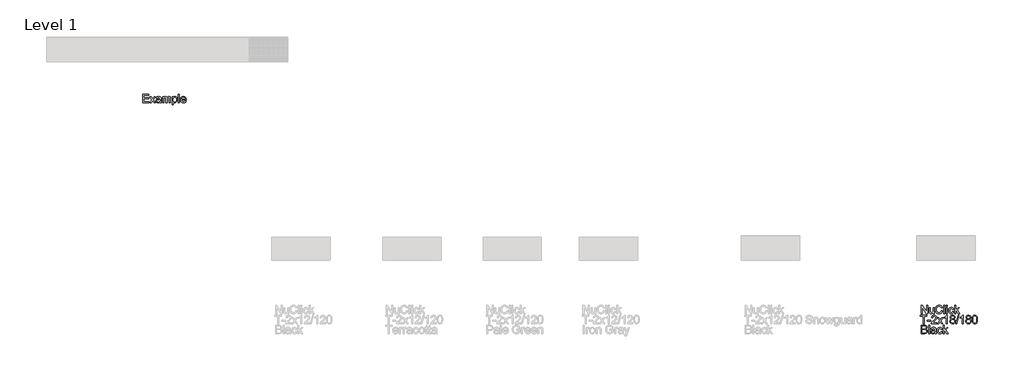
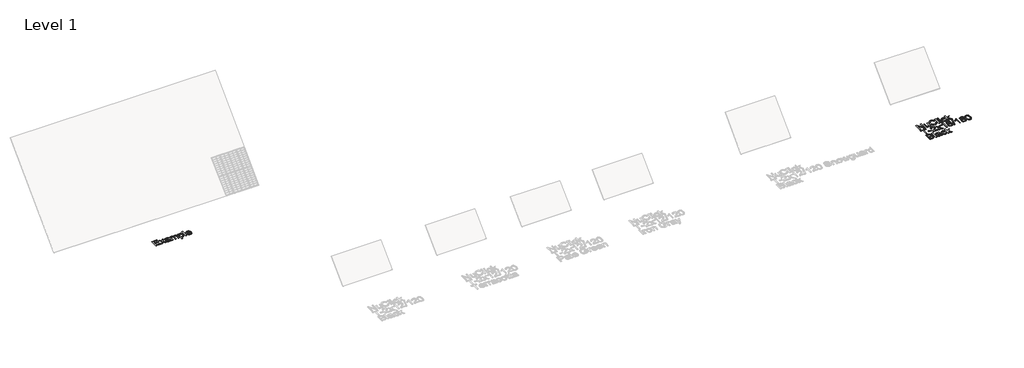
# One storey, part 13 of 13: 2 proxies.
"""IFC4 building model written with IfcOpenShell, lengths in millimetres."""

from ifc_helpers import new_model, si_unit, frame, origin, place, context, project, spatial, polyline, outline, extrude, element, save

model = new_model("IFC4")

# Units and contexts
model_context = context("Model", 3, world=origin())
ifc_project = project(units=[si_unit("LENGTHUNIT", "METRE", prefix="MILLI")], contexts=[model_context])

# Site, building, storey
site = spatial("IfcSite", under=ifc_project)
building = spatial("IfcBuilding", under=site)
storey = spatial("IfcBuildingStorey", under=building, Name="Level 1", Elevation=4000.0)

# Proxies
placement = place(None, origin())
element("IfcBuildingElementProxy", 1, Name="Elysium 400mm Arial", ObjectType="Elysium 400mm Arial", at=placement, inside=storey, context=model_context, shape_type="SweptSolid", body=[
    extrude(outline(polyline([(64683.147161, -9059.2083158), (64683.147161, -8657.3830752), (64736.9069832, -8657.3830752), (64946.8449751, -8975.7236283), (64946.8449751, -8657.3830752), (64997.0731302, -8657.3830752), (64997.0731302, -9059.2083158), (64943.313308, -9059.2083158), (64733.3753161, -8740.7696607), (64733.3753161, -9059.2083158), (64683.147161, -9059.2083158)])), frame((0.0, 0.0, 4000.0), z_axis=(0.0, 0.0, 1.0), x_axis=(1.0, 0.0, 0.0)), (0.0, 0.0, 1.0), 10.0),
    extrude(outline(polyline([(65267.0494637, -9059.2083158), (65267.0494637, -9008.4896513), (65248.8760932, -9033.4259193), (65227.7106157, -9051.2375392), (65203.5530314, -9061.9245111), (65176.4033401, -9065.4868351), (65151.9391875, -9062.9852376), (65129.167292, -9055.4804449), (65110.0619537, -9044.1987303), (65096.5974726, -9030.3663673), (65087.5353128, -9013.5664229), (65081.6369382, -8993.3819641), (65078.6938822, -8946.6854762), (65078.6938822, -8764.1179047), (65128.9220373, -8764.1179047), (65128.9220373, -8923.0429266), (65131.9631951, -8974.2521003), (65139.2840468, -8991.3340876), (65151.8288229, -9004.3203221), (65168.7636574, -9012.5240906), (65189.2546845, -9015.2586801), (65210.922934, -9012.4627769), (65231.1932319, -9004.0750674), (65247.9073373, -8990.8681038), (65258.9070089, -8973.6144382), (65265.01385, -8949.9841514), (65267.0494637, -8917.647324), (65267.0494637, -8764.1179047), (65317.2776188, -8764.1179047), (65317.2776188, -9059.2083158), (65267.0494637, -9059.2083158)])), frame((0.0, 0.0, 4000.0), z_axis=(0.0, 0.0, 1.0), x_axis=(1.0, 0.0, 0.0)), (0.0, 0.0, 1.0), 10.0),
    extrude(outline(polyline([(65675.1532237, -8916.3719998), (65725.3813788, -8929.321446), (65715.4424336, -8960.5576931), (65702.2048131, -8987.8514714), (65685.6685174, -9011.2027811), (65665.8335465, -9030.611622), (65643.1474901, -9045.8695277), (65618.0579381, -9056.7680318), (65590.5648903, -9063.3071343), (65560.6683468, -9065.4868351), (65530.039105, -9063.8374975), (65502.4081015, -9058.8894847), (65477.7753363, -9050.6427966), (65456.1408093, -9039.0974333), (65437.2071492, -9024.4250731), (65420.6769849, -9006.7973942), (65406.5503163, -8986.2143965), (65394.8271434, -8962.6760802), (65379.0450058, -8910.8047189), (65373.7842933, -8855.2545376), (65379.7317189, -8796.6631985), (65387.1660009, -8770.3657672), (65397.5739956, -8746.0671615), (65410.7227113, -8724.1689857), (65426.3791559, -8705.0728445), (65444.5433294, -8688.7787378), (65465.2152318, -8675.2866656), (65487.6928217, -8664.7069925), (65511.2740576, -8657.1500832), (65561.7474673, -8651.1045558), (65590.4759855, -8653.0604617), (65616.819402, -8658.9281795), (65640.777717, -8668.7077092), (65662.3509303, -8682.3990508), (65681.1834228, -8699.6404537), (65696.9195751, -8720.0701671), (65709.5593873, -8743.6881912), (65719.1028594, -8770.4945259), (65668.8747043, -8782.4629535), (65651.4616232, -8745.8341695), (65627.6719209, -8720.7078293), (65597.2112917, -8706.1764904), (65559.78543, -8701.3327108), (65516.6451347, -8706.703788), (65497.9628608, -8713.4176344), (65481.2058359, -8722.8170194), (65454.313662, -8747.9801478), (65436.8147418, -8780.5009162), (65427.2130217, -8817.2645903), (65424.0124484, -8855.1564358), (65427.8016329, -8901.5586181), (65439.1691866, -8941.682281), (65458.544305, -8973.9945829), (65486.3561838, -8996.9626822), (65519.6985553, -9010.6846806), (65555.6651517, -9015.2586801), (65577.5020138, -9013.7013129), (65597.5914364, -9009.0292116), (65615.9334196, -9001.242376), (65632.5279632, -8990.3408063), (65646.9826599, -8976.3735532), (65658.9051023, -8959.3896677), (65668.2952902, -8939.3891499), (65675.1532237, -8916.3719998)])), frame((0.0, 0.0, 4000.0), z_axis=(0.0, 0.0, 1.0), x_axis=(1.0, 0.0, 0.0)), (0.0, 0.0, 1.0), 10.0),
    extrude(outline(polyline([(65788.1665726, -9059.2083158), (65788.1665726, -8657.3830752), (65838.3947277, -8657.3830752), (65838.3947277, -9059.2083158), (65788.1665726, -9059.2083158)])), frame((0.0, 0.0, 4000.0), z_axis=(0.0, 0.0, 1.0), x_axis=(1.0, 0.0, 0.0)), (0.0, 0.0, 1.0), 10.0),
    extrude(outline(polyline([(65913.7369603, -8707.6112302), (65913.7369603, -8657.3830752), (65963.9651154, -8657.3830752), (65963.9651154, -8707.6112302), (65913.7369603, -8707.6112302)])), frame((0.0, 0.0, 4000.0), z_axis=(0.0, 0.0, 1.0), x_axis=(1.0, 0.0, 0.0)), (0.0, 0.0, 1.0), 10.0),
    extrude(outline(polyline([(65913.7369603, -9059.2083158), (65913.7369603, -8764.1179047), (65963.9651154, -8764.1179047), (65963.9651154, -9059.2083158), (65913.7369603, -9059.2083158)])), frame((0.0, 0.0, 4000.0), z_axis=(0.0, 0.0, 1.0), x_axis=(1.0, 0.0, 0.0)), (0.0, 0.0, 1.0), 10.0),
    extrude(outline(polyline([(66227.6629296, -8952.4734862), (66277.8910846, -8958.7520056), (66272.428037, -8982.4528031), (66263.8870433, -9003.4251425), (66252.2681037, -9021.6690238), (66237.571218, -9037.184447), (66220.4156542, -9049.5667418), (66201.4206806, -9058.4112381), (66180.5862969, -9063.7179359), (66157.9125033, -9065.4868351), (66129.7419395, -9063.0189601), (66104.4837748, -9055.6153349), (66082.1380093, -9043.2759597), (66062.7046429, -9026.0008343), (66046.9746219, -9004.1149213), (66035.7388927, -8977.943183), (66028.9974551, -8947.4856195), (66026.7503093, -8912.7422307), (66030.5885447, -8868.0445683), (66042.1032512, -8829.3065942), (66061.4783696, -8798.0243619), (66088.897841, -8775.6939248), (66121.7006522, -8762.3030202), (66157.2257902, -8757.8393853), (66179.5102421, -8759.3722269), (66199.6671097, -8763.9707519), (66217.6963932, -8771.6349601), (66233.5980924, -8782.3648516), (66247.1024273, -8795.9151718), (66257.9396178, -8812.0406659), (66266.1096637, -8830.741334), (66271.6125652, -8852.0171761), (66221.3844102, -8858.2956955), (66212.2731994, -8836.3821913), (66198.0852171, -8820.6736301), (66179.6052782, -8811.2190628), (66157.6181977, -8808.0675404), (66140.5515388, -8809.6187761), (66125.158743, -8814.2724834), (66111.4398102, -8822.0286621), (66099.3947406, -8832.8873123), (66089.5876197, -8847.0998201), (66082.5825334, -8864.9175714), (66078.3794816, -8886.3405662), (66076.9784643, -8911.3688046), (66082.4599061, -8958.4454373), (66089.3117082, -8976.3827502), (66098.9042312, -8990.5860609), (66110.7101776, -9001.3803318), (66124.2022498, -9009.0905253), (66139.3804478, -9013.7166414), (66156.2447716, -9015.2586801), (66182.2540286, -9011.4081818), (66203.5789216, -8999.8566872), (66219.0912791, -8980.3098905), (66227.6629296, -8952.4734862)])), frame((0.0, 0.0, 4000.0), z_axis=(0.0, 0.0, 1.0), x_axis=(1.0, 0.0, 0.0)), (0.0, 0.0, 1.0), 10.0),
    extrude(outline(polyline([(66321.8407203, -9059.2083158), (66321.8407203, -8657.3830752), (66372.0688754, -8657.3830752), (66372.0688754, -8873.3052809), (66484.6898168, -8764.1179047), (66554.1459375, -8764.1179047), (66440.15157, -8874.678707), (66560.4244569, -9059.2083158), (66501.7595414, -9059.2083158), (66404.1481854, -8909.602971), (66372.0688754, -8940.7012624), (66372.0688754, -9059.2083158), (66321.8407203, -9059.2083158)])), frame((0.0, 0.0, 4000.0), z_axis=(0.0, 0.0, 1.0), x_axis=(1.0, 0.0, 0.0)), (0.0, 0.0, 1.0), 10.0),
    extrude(outline(polyline([(64783.6034712, -9547.1075871), (64783.6034712, -9195.5105016), (64651.7545641, -9195.5105016), (64651.7545641, -9145.2823465), (64965.6805333, -9145.2823465), (64965.6805333, -9195.5105016), (64833.8316262, -9195.5105016), (64833.8316262, -9547.1075871), (64783.6034712, -9547.1075871)])), frame((0.0, 0.0, 4000.0), z_axis=(0.0, 0.0, 1.0), x_axis=(1.0, 0.0, 0.0)), (0.0, 0.0, 1.0), 10.0),
    extrude(outline(polyline([(64990.7946108, -9427.8157188), (64990.7946108, -9377.5875638), (65147.7575954, -9377.5875638), (65147.7575954, -9427.8157188), (64990.7946108, -9427.8157188)])), frame((0.0, 0.0, 4000.0), z_axis=(0.0, 0.0, 1.0), x_axis=(1.0, 0.0, 0.0)), (0.0, 0.0, 1.0), 10.0),
    extrude(outline(polyline([(65449.1265259, -9496.8794321), (65449.1265259, -9547.1075871), (65185.4287117, -9547.1075871), (65186.5323577, -9529.4247259), (65190.8243143, -9512.4776287), (65203.2096748, -9485.4137765), (65221.3339945, -9459.1592648), (65247.551718, -9431.6784798), (65284.2172902, -9400.9358077), (65338.4185708, -9352.7923173), (65370.9393392, -9317.2549165), (65387.1997234, -9288.4129681), (65392.6198514, -9260.3558346), (65387.5062917, -9235.2049689), (65372.1656125, -9214.2970088), (65348.5843766, -9200.2071284), (65318.7491468, -9195.5105016), (65287.4178635, -9200.0967638), (65263.0763382, -9213.8555504), (65247.367777, -9235.7077409), (65241.9353862, -9264.5742148), (65191.7072311, -9258.2956955), (65196.0267789, -9232.3661462), (65203.8841252, -9209.7107466), (65215.27927, -9190.3294968), (65230.2122133, -9174.2223968), (65248.3395986, -9161.5611248), (65269.3180694, -9152.5173591), (65293.1476256, -9147.0910997), (65319.8282673, -9145.2823465), (65346.7480323, -9147.2934348), (65370.7063473, -9153.3266995), (65391.7032121, -9163.3821407), (65409.7386269, -9177.4597584), (65424.2239805, -9194.5172202), (65434.5706616, -9213.5121939), (65440.7786703, -9234.4446794), (65442.8480065, -9257.3146768), (65440.6161891, -9281.3373711), (65433.9207368, -9304.9431324), (65422.0381483, -9328.953564), (65404.2449225, -9354.1902689), (65375.8812207, -9384.3198043), (65332.2872042, -9423.0087274), (65274.5052055, -9471.3238961), (65251.8436746, -9496.8794321), (65449.1265259, -9496.8794321)])), frame((0.0, 0.0, 4000.0), z_axis=(0.0, 0.0, 1.0), x_axis=(1.0, 0.0, 0.0)), (0.0, 0.0, 1.0), 10.0),
    extrude(outline(polyline([(65480.5191228, -9547.1075871), (65587.8425635, -9398.7775667), (65486.7976422, -9252.0171761), (65547.2283913, -9252.0171761), (65595.9850184, -9322.6505191), (65618.7446511, -9356.0051534), (65638.4631261, -9328.7328348), (65693.9887819, -9252.0171761), (65754.419531, -9252.0171761), (65648.2733126, -9398.7775667), (65750.4954563, -9547.1075871), (65690.0647073, -9547.1075871), (65628.5548377, -9457.9329915), (65617.2731232, -9441.6480818), (65540.9498719, -9547.1075871), (65480.5191228, -9547.1075871)])), frame((0.0, 0.0, 4000.0), z_axis=(0.0, 0.0, 1.0), x_axis=(1.0, 0.0, 0.0)), (0.0, 0.0, 1.0), 10.0),
    extrude(outline(polyline([(65970.2436348, -9547.1075871), (65920.0154797, -9547.1075871), (65920.0154797, -9233.9664328), (65899.046206, -9250.9257928), (65872.436075, -9267.8606273), (65819.5591696, -9293.2199595), (65819.5591696, -9245.7386567), (65859.0083822, -9224.2788736), (65893.1846195, -9198.7478632), (65920.1258443, -9171.5981719), (65937.8700192, -9145.2823465), (65970.2436348, -9145.2823465), (65970.2436348, -9547.1075871)])), frame((0.0, 0.0, 4000.0), z_axis=(0.0, 0.0, 1.0), x_axis=(1.0, 0.0, 0.0)), (0.0, 0.0, 1.0), 10.0),
    extrude(outline(polyline([(66162.7194947, -9325.7897788), (66135.8273208, -9312.546027), (66116.9549745, -9294.5933856), (66105.80815, -9272.2997367), (66102.0925419, -9246.0329623), (66104.1158928, -9225.5480665), (66110.1859458, -9206.7676907), (66120.3027006, -9189.6918347), (66134.4661574, -9174.3204987), (66151.9957345, -9161.6163071), (66172.2108501, -9152.5418846), (66195.1115043, -9147.097231), (66220.6976971, -9145.2823465), (66246.4065172, -9147.1401506), (66269.4788497, -9152.7135628), (66289.9146945, -9162.0025832), (66307.7140517, -9175.0072117), (66322.1350259, -9190.6789847), (66332.4357218, -9207.9694385), (66338.6161393, -9226.8785731), (66340.6762785, -9247.4063884), (66337.0097213, -9272.8270343), (66326.0100496, -9294.7405384), (66307.5546362, -9312.5828152), (66281.5208536, -9325.7897788), (66312.435204, -9341.7190692), (66334.9373193, -9365.1776778), (66348.6593178, -9395.0374331), (66353.2333172, -9430.1701636), (66350.9647116, -9455.2229275), (66344.1588947, -9478.1910267), (66332.8158665, -9499.0744613), (66316.935627, -9517.8732312), (66297.3520422, -9533.4101142), (66274.8989777, -9544.5078877), (66249.5764337, -9551.1665518), (66221.3844102, -9553.3861065), (66193.1923866, -9551.1573548), (66167.8698426, -9544.4710995), (66145.4167782, -9533.3273407), (66125.8331933, -9517.7260784), (66109.9529538, -9498.7954841), (66098.6099256, -9477.6637292), (66091.8041087, -9454.3308136), (66089.5355031, -9428.7967375), (66094.2934436, -9392.3028436), (66108.567265, -9362.2836728), (66131.6212033, -9339.7692946), (66162.7194947, -9325.7897788)]), holes=[polyline([(66152.3206969, -9247.5044903), (66156.7720691, -9269.4302572), (66170.1261855, -9286.9414401), (66191.9906388, -9298.4193584), (66221.9730214, -9302.2453311), (66251.2564282, -9298.4438839), (66272.7897876, -9287.039542), (66286.0335395, -9270.1169702), (66290.4481234, -9249.7608332), (66285.8863867, -9228.6321439), (66272.2011764, -9211.1577491), (66250.3735114, -9199.4223135), (66221.3844102, -9195.5105016), (66192.2113679, -9199.3364744), (66170.4204911, -9210.8143926), (66156.8456455, -9227.6388625), (66152.3206969, -9247.5044903)]), polyline([(66139.7636582, -9427.0309039), (66141.8605855, -9446.2466068), (66148.1513677, -9464.849173), (66159.764176, -9481.072769), (66177.8271819, -9493.1515612), (66199.4586433, -9500.6563539), (66221.7768176, -9503.1579514), (66255.9653177, -9497.8972389), (66269.8589944, -9491.3213482), (66281.6189555, -9482.1151013), (66297.6586105, -9458.2150344), (66303.0051622, -9428.6005338), (66297.4869322, -9398.4832611), (66280.9322425, -9374.0558966), (66268.8534503, -9364.6135921), (66254.6899935, -9357.8690888), (66220.1090859, -9352.4734862), (66186.3988324, -9357.7955124), (66172.6615056, -9364.4480452), (66161.002712, -9373.761591), (66145.0734216, -9397.7229716), (66139.7636582, -9427.0309039)])]), frame((0.0, 0.0, 4000.0), z_axis=(0.0, 0.0, 1.0), x_axis=(1.0, 0.0, 0.0)), (0.0, 0.0, 1.0), 10.0),
    extrude(outline(polyline([(66372.0688754, -9547.1075871), (66485.0822243, -9145.2823465), (66530.4052861, -9145.2823465), (66417.3919372, -9547.1075871), (66372.0688754, -9547.1075871)])), frame((0.0, 0.0, 4000.0), z_axis=(0.0, 0.0, 1.0), x_axis=(1.0, 0.0, 0.0)), (0.0, 0.0, 1.0), 10.0),
    extrude(outline(polyline([(66742.5015191, -9547.1075871), (66692.273364, -9547.1075871), (66692.273364, -9233.9664328), (66671.3040903, -9250.9257928), (66644.6939593, -9267.8606273), (66591.8170538, -9293.2199595), (66591.8170538, -9245.7386567), (66631.2662665, -9224.2788736), (66665.4425038, -9198.7478632), (66692.3837286, -9171.5981719), (66710.1279035, -9145.2823465), (66742.5015191, -9145.2823465), (66742.5015191, -9547.1075871)])), frame((0.0, 0.0, 4000.0), z_axis=(0.0, 0.0, 1.0), x_axis=(1.0, 0.0, 0.0)), (0.0, 0.0, 1.0), 10.0),
    extrude(outline(polyline([(66934.9773789, -9325.7897788), (66908.0852051, -9312.546027), (66889.2128587, -9294.5933856), (66878.0660343, -9272.2997367), (66874.3504261, -9246.0329623), (66876.3737771, -9225.5480665), (66882.44383, -9206.7676907), (66892.5605849, -9189.6918347), (66906.7240417, -9174.3204987), (66924.2536188, -9161.6163071), (66944.4687344, -9152.5418846), (66967.3693886, -9147.097231), (66992.9555814, -9145.2823465), (67018.6644015, -9147.1401506), (67041.7367339, -9152.7135628), (67062.1725788, -9162.0025832), (67079.971936, -9175.0072117), (67094.3929102, -9190.6789847), (67104.6936061, -9207.9694385), (67110.8740236, -9226.8785731), (67112.9341627, -9247.4063884), (67109.2676055, -9272.8270343), (67098.2679339, -9294.7405384), (67079.8125204, -9312.5828152), (67053.7787379, -9325.7897788), (67084.6930882, -9341.7190692), (67107.1952036, -9365.1776778), (67120.917202, -9395.0374331), (67125.4912015, -9430.1701636), (67123.2225959, -9455.2229275), (67116.416779, -9478.1910267), (67105.0737508, -9499.0744613), (67089.1935113, -9517.8732312), (67069.6099264, -9533.4101142), (67047.156862, -9544.5078877), (67021.834318, -9551.1665518), (66993.6422944, -9553.3861065), (66965.4502709, -9551.1573548), (66940.1277269, -9544.4710995), (66917.6746624, -9533.3273407), (66898.0910776, -9517.7260784), (66882.2108381, -9498.7954841), (66870.8678099, -9477.6637292), (66864.061993, -9454.3308136), (66861.7933874, -9428.7967375), (66866.5513278, -9392.3028436), (66880.8251493, -9362.2836728), (66903.8790876, -9339.7692946), (66934.9773789, -9325.7897788)]), holes=[polyline([(66924.5785812, -9247.5044903), (66929.0299534, -9269.4302572), (66942.3840698, -9286.9414401), (66964.248523, -9298.4193584), (66994.2309056, -9302.2453311), (67023.5143125, -9298.4438839), (67045.0476719, -9287.039542), (67058.2914237, -9270.1169702), (67062.7060077, -9249.7608332), (67058.1442709, -9228.6321439), (67044.4590607, -9211.1577491), (67022.6313957, -9199.4223135), (66993.6422944, -9195.5105016), (66964.4692522, -9199.3364744), (66942.6783754, -9210.8143926), (66929.1035298, -9227.6388625), (66924.5785812, -9247.5044903)]), polyline([(66912.0215424, -9427.0309039), (66914.1184698, -9446.2466068), (66920.4092519, -9464.849173), (66932.0220602, -9481.072769), (66950.0850662, -9493.1515612), (66971.7165275, -9500.6563539), (66994.0347019, -9503.1579514), (67028.223202, -9497.8972389), (67042.1168787, -9491.3213482), (67053.8768398, -9482.1151013), (67069.9164948, -9458.2150344), (67075.2630464, -9428.6005338), (67069.7448165, -9398.4832611), (67053.1901267, -9374.0558966), (67041.1113346, -9364.6135921), (67026.9478777, -9357.8690888), (66992.3669702, -9352.4734862), (66958.6567167, -9357.7955124), (66944.9193899, -9364.4480452), (66933.2605963, -9373.761591), (66917.3313059, -9397.7229716), (66912.0215424, -9427.0309039)])]), frame((0.0, 0.0, 4000.0), z_axis=(0.0, 0.0, 1.0), x_axis=(1.0, 0.0, 0.0)), (0.0, 0.0, 1.0), 10.0),
    extrude(outline(polyline([(67169.4408372, -9349.4323284), (67173.1319199, -9285.1142929), (67184.2051679, -9233.81928), (67202.5502168, -9194.7624749), (67214.4082797, -9179.5290946), (67228.0567018, -9167.1590625), (67243.5414681, -9157.5879993), (67260.9085639, -9150.7515255), (67301.2897443, -9145.2823465), (67332.2408828, -9148.5197081), (67359.9546598, -9158.2317928), (67383.1312255, -9174.0384558), (67400.4707302, -9195.5595525), (67413.5673292, -9222.6111419), (67424.0151779, -9255.009283), (67430.857783, -9296.1507528), (67433.1386513, -9349.4323284), (67429.4843569, -9413.3824819), (67418.5214734, -9464.5548674), (67400.2867892, -9503.6484608), (67388.4563173, -9518.9278263), (67374.8170924, -9531.3622377), (67359.313932, -9540.9976803), (67341.8916538, -9547.8801393), (67301.2897443, -9553.3861065), (67273.6250182, -9550.9948735), (67249.0995519, -9543.8211746), (67227.7133452, -9531.8650098), (67209.4663983, -9515.126379), (67191.9552153, -9484.8680849), (67179.4472275, -9447.1663118), (67171.9424348, -9402.0210596), (67169.4408372, -9349.4323284)]), holes=[polyline([(67219.6689923, -9349.3342265), (67221.1405203, -9392.9987537), (67225.5551042, -9428.3430164), (67232.9127441, -9455.3670146), (67243.21344, -9474.0707484), (67255.6723769, -9486.7963997), (67269.5047399, -9495.8861507), (67284.710529, -9501.3400012), (67301.2897443, -9503.1579514), (67317.8689595, -9501.3338699), (67333.0747487, -9495.8616252), (67346.9071117, -9486.7412174), (67359.3660486, -9473.9726465), (67369.6667444, -9455.2382559), (67377.0243843, -9428.220389), (67381.4389683, -9392.9190459), (67382.9104963, -9349.3342265), (67381.4880192, -9306.825462), (67377.2205881, -9272.103533), (67370.1082028, -9245.1684396), (67360.1508635, -9226.0201817), (67347.9003931, -9212.6721967), (67333.9086145, -9203.1379216), (67318.1755279, -9197.4173566), (67300.7011331, -9195.5105016), (67284.207757, -9197.1904961), (67269.2594852, -9202.2304794), (67255.8563179, -9210.6304516), (67243.9982549, -9222.3904127), (67233.3542025, -9243.2370591), (67225.7513079, -9271.3432435), (67221.1895712, -9306.708966), (67219.6689923, -9349.3342265)])]), frame((0.0, 0.0, 4000.0), z_axis=(0.0, 0.0, 1.0), x_axis=(1.0, 0.0, 0.0)), (0.0, 0.0, 1.0), 10.0),
    extrude(outline(polyline([(64683.147161, -10035.0068585), (64683.147161, -9633.1816179), (64836.4803766, -9633.1816179), (64878.651916, -9636.1369366), (64911.5773545, -9645.0028927), (64936.8140594, -9660.0002154), (64955.9193977, -9681.3496338), (64967.9491389, -9706.4637114), (64971.9590527, -9732.7550113), (64968.5868011, -9756.9493838), (64958.4700462, -9779.6967539), (64941.5352117, -9799.5991698), (64917.7087211, -9815.2586801), (64946.1705248, -9830.1211127), (64967.2011122, -9852.7335926), (64980.1873466, -9881.6000665), (64984.5160914, -9915.2244809), (64981.5607728, -9943.2448262), (64972.6948167, -9969.2295578), (64959.4633276, -9991.327003), (64943.4114099, -10007.685489), (64923.7542486, -10019.5312892), (64899.7070288, -10028.090677), (64870.4849357, -10033.2778131), (64835.3031542, -10035.0068585), (64683.147161, -10035.0068585)]), holes=[polyline([(64733.3753161, -9796.4231219), (64825.1005602, -9796.4231219), (64878.6641787, -9792.1066398), (64897.4138977, -9784.6631608), (64910.8906415, -9773.5163363), (64919.0208336, -9758.8378447), (64921.7308976, -9740.7993642), (64919.2047746, -9723.2881813), (64911.6264055, -9708.0333412), (64899.3391468, -9696.1262273), (64882.6863552, -9688.6582228), (64857.1308193, -9684.7218854), (64818.1353278, -9683.409773), (64733.3753161, -9683.409773), (64733.3753161, -9796.4231219)]), polyline([(64733.3753161, -9984.7787034), (64836.3822747, -9984.7787034), (64873.6609836, -9982.8166661), (64905.2007333, -9971.8783081), (64916.7767534, -9962.4482663), (64926.0964306, -9949.5601338), (64932.2400599, -9933.7902589), (64934.2879364, -9915.7149902), (64931.8844407, -9894.721191), (64924.6739536, -9876.6704478), (64912.0801266, -9862.5560419), (64893.5266113, -9853.3712548), (64867.2475741, -9848.3312714), (64831.4771815, -9846.651277), (64733.3753161, -9846.651277), (64733.3753161, -9984.7787034)])]), frame((0.0, 0.0, 4000.0), z_axis=(0.0, 0.0, 1.0), x_axis=(1.0, 0.0, 0.0)), (0.0, 0.0, 1.0), 10.0),
    extrude(outline(polyline([(65047.3012853, -10035.0068585), (65047.3012853, -9633.1816179), (65097.5294404, -9633.1816179), (65097.5294404, -10035.0068585), (65047.3012853, -10035.0068585)])), frame((0.0, 0.0, 4000.0), z_axis=(0.0, 0.0, 1.0), x_axis=(1.0, 0.0, 0.0)), (0.0, 0.0, 1.0), 10.0),
    extrude(outline(polyline([(65361.2272545, -9997.3357422), (65337.2290857, -10017.9126085), (65312.5196783, -10031.3770895), (65286.5349468, -10038.8083058), (65258.7108052, -10041.2853779), (65236.3466456, -10039.7954558), (65216.7354695, -10035.3256896), (65199.8772771, -10027.8760792), (65185.7720683, -10017.4466246), (65174.6344409, -10004.6995135), (65166.6789927, -9990.2969334), (65161.9057238, -9974.2388843), (65160.3146342, -9956.5253662), (65162.7181299, -9935.7032453), (65169.928617, -9916.7941107), (65181.050916, -9900.6073029), (65195.1898474, -9887.9521623), (65211.8058508, -9878.3872304), (65230.3593661, -9871.4710489), (65273.8184925, -9863.9172053), (65325.174819, -9855.9709542), (65360.9329489, -9846.651277), (65361.2272545, -9835.4676643), (65357.7691638, -9813.0513881), (65347.3948915, -9798.3851592), (65324.1938003, -9787.4958522), (65291.8692357, -9783.8660831), (65261.9481667, -9786.2818416), (65241.0524694, -9793.5291169), (65226.8031735, -9806.9322842), (65216.8213087, -9827.8157188), (65166.5931536, -9821.5371994), (65175.3119569, -9794.0686771), (65188.3227168, -9772.4862668), (65206.8394439, -9755.9806279), (65232.0761487, -9743.7424202), (65262.9414481, -9736.1640511), (65298.3439588, -9733.6379281), (65332.299467, -9735.8697455), (65359.2161663, -9742.5651978), (65379.5109897, -9752.6329017), (65393.6008701, -9764.9814741), (65402.9450728, -9780.2485769), (65409.002863, -9799.0718723), (65411.4554096, -9843.021508), (65411.4554096, -9905.5123962), (65414.0060581, -9992.7740055), (65424.0124484, -10035.0068585), (65373.7842933, -10035.0068585), (65365.7399403, -10017.5447265), (65361.2272545, -9997.3357422)]), holes=[polyline([(65361.2272545, -9896.8794321), (65327.4802128, -9905.2426161), (65280.1951137, -9912.2814249), (65236.981242, -9920.4238797), (65225.7363157, -9925.9911606), (65217.4099199, -9933.6676316), (65212.2595719, -9942.8646815), (65210.5427893, -9952.9936991), (65214.2829229, -9967.9297081), (65225.5033238, -9980.1679158), (65243.9587372, -9988.3348961), (65269.4039085, -9991.0572228), (65296.3819215, -9988.0528532), (65320.2206748, -9979.0397443), (65339.5467423, -9965.7592043), (65352.9866978, -9949.9525412), (65358.9463861, -9933.6676316), (65360.9329489, -9911.1042025), (65361.2272545, -9896.8794321)])]), frame((0.0, 0.0, 4000.0), z_axis=(0.0, 0.0, 1.0), x_axis=(1.0, 0.0, 0.0)), (0.0, 0.0, 1.0), 10.0),
    extrude(outline(polyline([(65668.8747043, -9928.272029), (65719.1028594, -9934.5505484), (65713.6398118, -9958.2513459), (65705.0988181, -9979.2236853), (65693.4798785, -9997.4675666), (65678.7829927, -10012.9829897), (65661.627429, -10025.3652846), (65642.6324554, -10034.2097809), (65621.7980717, -10039.5164786), (65599.1242781, -10041.2853779), (65570.9537143, -10038.8175028), (65545.6955496, -10031.4138777), (65523.3497841, -10019.0745024), (65503.9164177, -10001.7993771), (65488.1863967, -9979.9134641), (65476.9506675, -9953.7417258), (65470.2092299, -9923.2841623), (65467.962084, -9888.5407735), (65471.8003195, -9843.8431111), (65483.315026, -9805.105137), (65502.6901444, -9773.8229047), (65530.1096158, -9751.4924676), (65562.912427, -9738.1015629), (65598.437565, -9733.6379281), (65620.7220169, -9735.1707697), (65640.8788845, -9739.7692946), (65658.908168, -9747.4335029), (65674.8098672, -9758.1633944), (65688.3142021, -9771.7137146), (65699.1513925, -9787.8392087), (65707.3214385, -9806.5398768), (65712.82434, -9827.8157188), (65662.596185, -9834.0942382), (65653.4849742, -9812.180734), (65639.2969919, -9796.4721728), (65620.817053, -9787.0176056), (65598.8299725, -9783.8660831), (65581.7633136, -9785.4173189), (65566.3705178, -9790.0710261), (65552.651585, -9797.8272049), (65540.6065154, -9808.6858551), (65530.7993945, -9822.8983628), (65523.7943082, -9840.7161141), (65519.5912564, -9862.139109), (65518.1902391, -9887.1673474), (65523.6716808, -9934.24398), (65530.523483, -9952.181293), (65540.116006, -9966.3846037), (65551.9219524, -9977.1788746), (65565.4140246, -9984.889068), (65580.5922226, -9989.5151841), (65597.4565463, -9991.0572228), (65623.4658034, -9987.2067246), (65644.7906964, -9975.65523), (65660.3030539, -9956.1084333), (65668.8747043, -9928.272029)])), frame((0.0, 0.0, 4000.0), z_axis=(0.0, 0.0, 1.0), x_axis=(1.0, 0.0, 0.0)), (0.0, 0.0, 1.0), 10.0),
    extrude(outline(polyline([(65763.0524951, -10035.0068585), (65763.0524951, -9633.1816179), (65813.2806502, -9633.1816179), (65813.2806502, -9849.1038236), (65925.9015916, -9739.9164474), (65995.3577123, -9739.9164474), (65881.3633448, -9850.4772497), (66001.6362317, -10035.0068585), (65942.9713162, -10035.0068585), (65845.3599602, -9885.4015138), (65813.2806502, -9916.4998051), (65813.2806502, -10035.0068585), (65763.0524951, -10035.0068585)])), frame((0.0, 0.0, 4000.0), z_axis=(0.0, 0.0, 1.0), x_axis=(1.0, 0.0, 0.0)), (0.0, 0.0, 1.0), 10.0),
])
element("IfcBuildingElementProxy", 2, Name="Elysium 400mm Arial", ObjectType="Elysium 400mm Arial", at=placement, inside=storey, context=model_context, shape_type="SweptSolid", body=[
    extrude(outline(polyline([(26709.2398981, 1234.9820255), (26709.2398981, 1636.8072661), (26998.0517898, 1636.8072661), (26998.0517898, 1586.579111), (26759.4680532, 1586.579111), (26759.4680532, 1467.2872427), (26985.494751, 1467.2872427), (26985.494751, 1417.0590876), (26759.4680532, 1417.0590876), (26759.4680532, 1285.2101806), (27004.3303092, 1285.2101806), (27004.3303092, 1234.9820255), (26709.2398981, 1234.9820255)])), frame((0.0, 0.0, 4000.0), z_axis=(0.0, 0.0, 1.0), x_axis=(1.0, 0.0, 0.0)), (0.0, 0.0, 1.0), 10.0),
    extrude(outline(polyline([(27042.0014255, 1234.9820255), (27149.3248662, 1383.312046), (27048.2799448, 1530.0724366), (27108.7106939, 1530.0724366), (27157.467321, 1459.4390935), (27180.2269538, 1426.0844593), (27199.9454287, 1453.3567778), (27255.4710845, 1530.0724366), (27315.9018336, 1530.0724366), (27209.7556153, 1383.312046), (27311.977759, 1234.9820255), (27251.5470099, 1234.9820255), (27190.0371403, 1324.1566211), (27178.7554258, 1340.4415308), (27102.4321745, 1234.9820255), (27042.0014255, 1234.9820255)])), frame((0.0, 0.0, 4000.0), z_axis=(0.0, 0.0, 1.0), x_axis=(1.0, 0.0, 0.0)), (0.0, 0.0, 1.0), 10.0),
    extrude(outline(polyline([(27544.2829762, 1272.6531418), (27520.2848074, 1252.0762755), (27495.5754, 1238.6117945), (27469.5906685, 1231.1805782), (27441.7665269, 1228.7035061), (27419.4023673, 1230.1934282), (27399.7911912, 1234.6631944), (27382.9329988, 1242.1128048), (27368.82779, 1252.5422594), (27357.6901626, 1265.2893705), (27349.7347144, 1279.6919506), (27344.9614455, 1295.7499997), (27343.3703559, 1313.4635178), (27345.7738516, 1334.2856387), (27352.9843387, 1353.1947733), (27364.1066377, 1369.3815811), (27378.2455691, 1382.0367217), (27394.8615725, 1391.6016536), (27413.4150878, 1398.5178351), (27456.8742142, 1406.0716787), (27508.2305407, 1414.0179298), (27543.9886706, 1423.337607), (27544.2829762, 1434.5212197), (27540.8248855, 1456.9374959), (27530.4506132, 1471.6037248), (27507.249522, 1482.4930319), (27474.9249574, 1486.1228009), (27445.0038884, 1483.7070424), (27424.1081911, 1476.4597671), (27409.8588952, 1463.0565998), (27399.8770304, 1442.1731652), (27349.6488753, 1448.4516846), (27358.3676786, 1475.9202069), (27371.3784385, 1497.5026173), (27389.8951656, 1514.0082561), (27415.1318704, 1526.2464638), (27445.9971698, 1533.8248329), (27481.3996805, 1536.350956), (27515.3551887, 1534.1191385), (27542.271888, 1527.4236862), (27562.5667114, 1517.3559823), (27576.6565918, 1505.00741), (27586.0007945, 1489.7403072), (27592.0585846, 1470.9170117), (27594.5111313, 1426.9673761), (27594.5111313, 1364.4764878), (27597.0617798, 1277.2148785), (27607.0681701, 1234.9820255), (27556.840015, 1234.9820255), (27548.795662, 1252.4441575), (27544.2829762, 1272.6531418)]), holes=[polyline([(27544.2829762, 1373.109452), (27510.5359345, 1364.7462679), (27463.2508354, 1357.7074591), (27420.0369637, 1349.5650043), (27408.7920374, 1343.9977234), (27400.4656416, 1336.3212524), (27395.3152936, 1327.1242026), (27393.598511, 1316.995185), (27397.3386446, 1302.059176), (27408.5590455, 1289.8209682), (27427.0144589, 1281.653988), (27452.4596302, 1278.9316612), (27479.4376432, 1281.9360308), (27503.2763965, 1290.9491397), (27522.602464, 1304.2296797), (27536.0424195, 1320.0363428), (27542.0021078, 1336.3212524), (27543.9886706, 1358.8846815), (27544.2829762, 1373.109452)])]), frame((0.0, 0.0, 4000.0), z_axis=(0.0, 0.0, 1.0), x_axis=(1.0, 0.0, 0.0)), (0.0, 0.0, 1.0), 10.0),
    extrude(outline(polyline([(27663.5748445, 1234.9820255), (27663.5748445, 1530.0724366), (27713.8029996, 1530.0724366), (27713.8029996, 1481.5120132), (27728.9106869, 1503.8179248), (27748.3348562, 1521.2923196), (27771.41332, 1532.5862969), (27797.4838908, 1536.350956), (27825.4183969, 1532.5127205), (27847.8101477, 1520.998014), (27864.5365157, 1502.5671261), (27875.4748737, 1477.980346), (27893.7831344, 1503.5174879), (27914.666569, 1521.7583035), (27938.1251775, 1532.7027928), (27964.15896, 1536.350956), (27984.2667768, 1534.8334427), (28001.9159155, 1530.280903), (28017.1063762, 1522.6933369), (28029.8381589, 1512.0707443), (28039.9027972, 1498.2904979), (28047.0918245, 1481.2299703), (28051.4052409, 1460.8891617), (28052.8430463, 1437.2680719), (28052.8430463, 1234.9820255), (28002.6148913, 1234.9820255), (28002.6148913, 1415.6856615), (28001.4499316, 1440.7384254), (27997.9550527, 1457.624209), (27991.4067531, 1469.1879664), (27981.0815318, 1478.2746516), (27967.8009918, 1484.1607636), (27952.3867362, 1486.1228009), (27925.1757313, 1481.0950803), (27902.992447, 1466.0119185), (27894.387074, 1454.4420297), (27888.240379, 1439.8432459), (27883.323023, 1401.5589929), (27883.323023, 1234.9820255), (27833.0948679, 1234.9820255), (27833.0948679, 1421.2774679), (27830.1886001, 1449.6779579), (27821.4697968, 1469.9359931), (27806.1291176, 1482.0760989), (27783.3572221, 1486.1228009), (27764.0066292, 1483.4249996), (27746.1766152, 1475.3315957), (27731.4613354, 1462.0387929), (27721.4549451, 1443.742795), (27715.715986, 1418.3589374), (27713.8029996, 1383.8025553), (27713.8029996, 1234.9820255), (27663.5748445, 1234.9820255)])), frame((0.0, 0.0, 4000.0), z_axis=(0.0, 0.0, 1.0), x_axis=(1.0, 0.0, 0.0)), (0.0, 0.0, 1.0), 10.0),
    extrude(outline(polyline([(28128.185279, 1121.9686766), (28128.185279, 1530.0724366), (28178.413434, 1530.0724366), (28178.413434, 1480.8253001), (28194.7964455, 1505.1177746), (28213.1414944, 1522.469542), (28234.527701, 1532.8806025), (28260.034186, 1536.350956), (28294.0019569, 1531.4949136), (28323.7022967, 1516.9267866), (28347.8844065, 1493.5294917), (28365.2974876, 1462.1859457), (28375.8189126, 1425.177017), (28379.3260543, 1384.7835739), (28375.3651915, 1341.8272196), (28363.4826031, 1303.4080766), (28344.0584337, 1271.4759194), (28317.4728282, 1247.9805227), (28286.5094269, 1233.5227603), (28253.9518704, 1228.7035061), (28230.8611438, 1231.9286049), (28210.2474893, 1241.6039014), (28192.6014163, 1256.2088166), (28178.413434, 1274.2227717), (28178.413434, 1121.9686766), (28128.185279, 1121.9686766)]), holes=[polyline([(28178.413434, 1380.1727863), (28183.8458248, 1335.1440301), (28190.6363133, 1317.7064235), (28200.1429972, 1303.6533313), (28224.190217, 1285.1120787), (28237.9520693, 1280.4767656), (28252.8727499, 1278.9316612), (28268.0080283, 1280.5319479), (28282.0212666, 1285.3328079), (28294.9124649, 1293.3342413), (28306.681623, 1304.5362481), (28316.4887439, 1319.0982437), (28323.4938302, 1337.1796438), (28327.696882, 1358.7804482), (28329.0978993, 1383.9006571), (28323.6287203, 1428.6841587), (28316.7922465, 1446.2566553), (28307.2211833, 1460.6163159), (28283.2107517, 1479.7461796), (28269.6052493, 1484.5286456), (28254.932889, 1486.1228009), (28240.306514, 1484.427478), (28226.5446617, 1479.3415094), (28201.6145252, 1458.9976351), (28191.4640478, 1443.8991449), (28184.2137068, 1425.72884), (28179.8635022, 1404.4867205), (28178.413434, 1380.1727863)])]), frame((0.0, 0.0, 4000.0), z_axis=(0.0, 0.0, 1.0), x_axis=(1.0, 0.0, 0.0)), (0.0, 0.0, 1.0), 10.0),
    extrude(outline(polyline([(28435.8327288, 1234.9820255), (28435.8327288, 1636.8072661), (28486.0608839, 1636.8072661), (28486.0608839, 1234.9820255), (28435.8327288, 1234.9820255)])), frame((0.0, 0.0, 4000.0), z_axis=(0.0, 0.0, 1.0), x_axis=(1.0, 0.0, 0.0)), (0.0, 0.0, 1.0), 10.0),
    extrude(outline(polyline([(28768.005645, 1322.8812969), (28817.2527814, 1316.6027775), (28809.7020034, 1296.8781712), (28799.5086065, 1279.4957469), (28786.6725905, 1264.4555047), (28771.1939556, 1251.7574445), (28753.2321172, 1241.6713464), (28732.9464908, 1234.4669907), (28685.4038743, 1228.7035061), (28654.238138, 1231.1897753), (28626.4691787, 1238.6485827), (28602.0969965, 1251.0799285), (28581.1215914, 1268.4838125), (28564.2542019, 1290.3758569), (28552.2060666, 1316.2716837), (28544.9771854, 1346.1712929), (28542.5675583, 1380.0746844), (28545.0017109, 1415.1277072), (28552.3041685, 1446.0236634), (28564.4749311, 1472.7625531), (28581.5139989, 1495.3443762), (28602.4342217, 1513.2847549), (28626.2484495, 1526.099311), (28652.9566823, 1533.7880447), (28682.5589202, 1536.350956), (28711.2077306, 1533.7941761), (28737.1158201, 1526.1238365), (28760.2831888, 1513.3399372), (28780.7098365, 1495.4424781), (28797.384088, 1472.9097059), (28809.2942676, 1446.2198671), (28816.4403753, 1415.3729618), (28818.8224112, 1380.36899), (28818.5281056, 1366.8309326), (28592.7957134, 1366.8309326), (28595.7050468, 1346.7874952), (28601.4899912, 1329.2333927), (28610.1505465, 1314.168625), (28621.6867128, 1301.5931921), (28635.4608278, 1291.6787723), (28650.8352295, 1284.5970439), (28686.384893, 1278.9316612), (28713.1176513, 1281.5558861), (28735.6320294, 1289.4285608), (28753.9280273, 1303.0401946), (28768.005645, 1322.8812969)]), holes=[polyline([(28592.7957134, 1417.0590876), (28768.5942562, 1417.0590876), (28761.800702, 1443.5956422), (28748.4833738, 1462.5783532), (28734.7859008, 1472.879049), (28719.1999669, 1480.236689), (28701.7255722, 1484.6512729), (28682.3627165, 1486.1228009), (28648.5053102, 1481.4261741), (28620.5094904, 1467.3362937), (28601.0485328, 1445.3737385), (28592.7957134, 1417.0590876)])]), frame((0.0, 0.0, 4000.0), z_axis=(0.0, 0.0, 1.0), x_axis=(1.0, 0.0, 0.0)), (0.0, 0.0, 1.0), 10.0),
])

save(model, "model.ifc")
